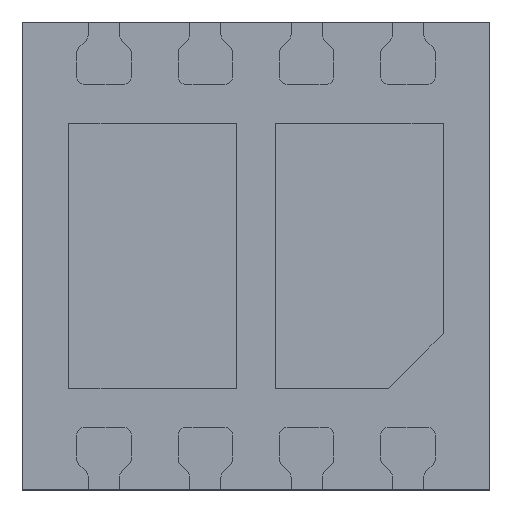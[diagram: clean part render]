
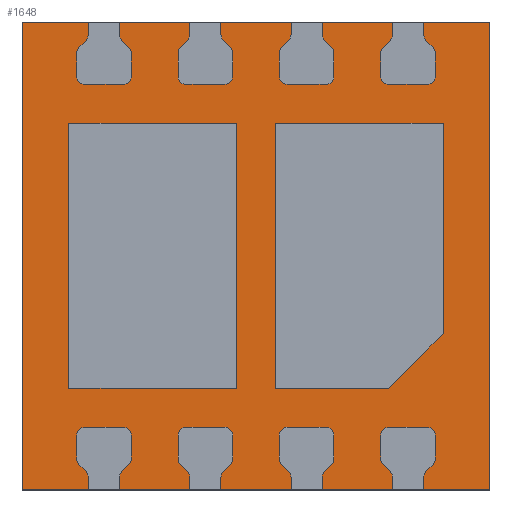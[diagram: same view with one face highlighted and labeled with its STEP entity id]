
A CAD part, top view. The second image highlights one B-rep face of the part: STEP entity #1648.
In plain terms, the highlighted planar face has unit normal (0, 0, 1).
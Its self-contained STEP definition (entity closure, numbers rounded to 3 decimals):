
#247 = VECTOR ( 'NONE', #2901, 1000. ) ;
#318 = DIRECTION ( 'NONE',  ( 0., -1., 0. ) ) ;
#329 = LINE ( 'NONE', #1723, #924 ) ;
#418 = VECTOR ( 'NONE', #2260, 1000. ) ;
#519 = PLANE ( 'NONE',  #2208 ) ;
#684 = LINE ( 'NONE', #2103, #1989 ) ;
#750 = VERTEX_POINT ( 'NONE', #4283 ) ;
#815 = CARTESIAN_POINT ( 'NONE',  ( 43.304, 517.358, 0. ) ) ;
#924 = VECTOR ( 'NONE', #4073, 1000. ) ;
#942 = EDGE_CURVE ( 'NONE', #4357, #2550, #329, .T. ) ;
#1120 = EDGE_CURVE ( 'NONE', #2550, #750, #1129, .T. ) ;
#1129 = LINE ( 'NONE', #2890, #418 ) ;
#1375 = CARTESIAN_POINT ( 'NONE',  ( 44.804, 515.858, 0. ) ) ;
#1548 = EDGE_CURVE ( 'NONE', #750, #2302, #684, .T. ) ;
#1648 = ADVANCED_FACE ( 'NONE', ( #1914 ), #519, .F. ) ;
#1723 = CARTESIAN_POINT ( 'NONE',  ( 41.804, 515.858, 0. ) ) ;
#1881 = LINE ( 'NONE', #2215, #247 ) ;
#1914 = FACE_OUTER_BOUND ( 'NONE', #3299, .T. ) ;
#1989 = VECTOR ( 'NONE', #318, 1000. ) ;
#2103 = CARTESIAN_POINT ( 'NONE',  ( 44.804, 518.858, 0. ) ) ;
#2208 = AXIS2_PLACEMENT_3D ( 'NONE', #815, #3939, #2209 ) ;
#2209 = DIRECTION ( 'NONE',  ( -1., 0., 0. ) ) ;
#2215 = CARTESIAN_POINT ( 'NONE',  ( 44.804, 515.858, 0. ) ) ;
#2260 = DIRECTION ( 'NONE',  ( 1., 0., 0. ) ) ;
#2302 = VERTEX_POINT ( 'NONE', #1375 ) ;
#2492 = ORIENTED_EDGE ( 'NONE', *, *, #942, .F. ) ;
#2550 = VERTEX_POINT ( 'NONE', #3973 ) ;
#2890 = CARTESIAN_POINT ( 'NONE',  ( 41.804, 518.858, 0. ) ) ;
#2901 = DIRECTION ( 'NONE',  ( -1., 0., 0. ) ) ;
#3202 = ORIENTED_EDGE ( 'NONE', *, *, #3971, .F. ) ;
#3221 = CARTESIAN_POINT ( 'NONE',  ( 41.804, 515.858, 0. ) ) ;
#3299 = EDGE_LOOP ( 'NONE', ( #4017, #3455, #2492, #3202 ) ) ;
#3455 = ORIENTED_EDGE ( 'NONE', *, *, #1120, .F. ) ;
#3939 = DIRECTION ( 'NONE',  ( 0., 0., -1. ) ) ;
#3971 = EDGE_CURVE ( 'NONE', #2302, #4357, #1881, .T. ) ;
#3973 = CARTESIAN_POINT ( 'NONE',  ( 41.804, 518.858, 0. ) ) ;
#4017 = ORIENTED_EDGE ( 'NONE', *, *, #1548, .F. ) ;
#4073 = DIRECTION ( 'NONE',  ( 0., 1., 0. ) ) ;
#4283 = CARTESIAN_POINT ( 'NONE',  ( 44.804, 518.858, 0. ) ) ;
#4357 = VERTEX_POINT ( 'NONE', #3221 ) ;
